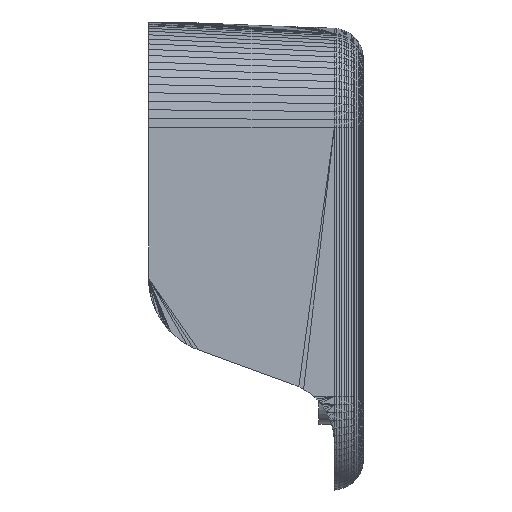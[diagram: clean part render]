
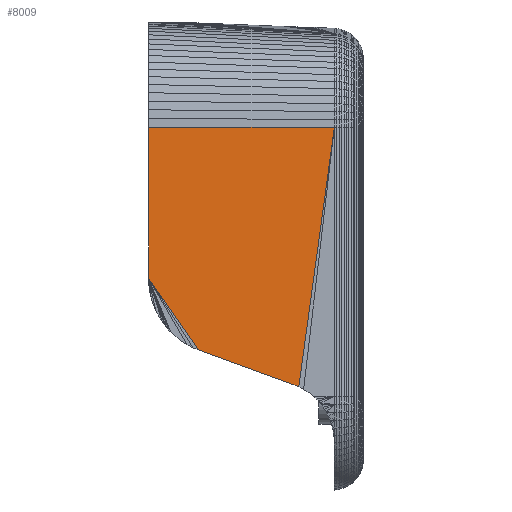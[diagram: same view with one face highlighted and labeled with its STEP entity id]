
A CAD part, front view. The second image highlights one B-rep face of the part: STEP entity #8009.
In plain terms, the highlighted planar face has unit normal (0.052, -0.999, 0).
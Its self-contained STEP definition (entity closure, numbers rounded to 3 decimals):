
#2316 = VERTEX_POINT ( 'NONE', #58210 ) ;
#4980 = DIRECTION ( 'NONE',  ( 0.573, 0.03, -0.819 ) ) ;
#5053 = CARTESIAN_POINT ( 'NONE',  ( 66.709, -12.199, 35.065 ) ) ;
#5126 = VECTOR ( 'NONE', #89775, 1000. ) ;
#7486 = VECTOR ( 'NONE', #4980, 1000. ) ;
#8009 = ADVANCED_FACE ( 'NONE', ( #56257 ), #115803, .T. ) ;
#11404 = LINE ( 'NONE', #63272, #69456 ) ;
#16941 = EDGE_CURVE ( 'NONE', #111995, #2316, #19189, .T. ) ;
#19189 = LINE ( 'NONE', #41678, #100522 ) ;
#22105 = EDGE_CURVE ( 'NONE', #22167, #49150, #127158, .T. ) ;
#22167 = VERTEX_POINT ( 'NONE', #48613 ) ;
#24859 = DIRECTION ( 'NONE',  ( 0.052, -0.999, 0. ) ) ;
#25346 = ORIENTED_EDGE ( 'NONE', *, *, #16941, .F. ) ;
#32400 = EDGE_CURVE ( 'NONE', #111995, #22167, #109569, .T. ) ;
#35492 = ORIENTED_EDGE ( 'NONE', *, *, #32400, .T. ) ;
#38263 = DIRECTION ( 'NONE',  ( 0.923, 0.048, -0.382 ) ) ;
#40237 = CARTESIAN_POINT ( 'NONE',  ( 49.08, -13.123, 6.015 ) ) ;
#41678 = CARTESIAN_POINT ( 'NONE',  ( 66.712, -12.199, 35.065 ) ) ;
#42165 = VECTOR ( 'NONE', #97189, 1000. ) ;
#44517 = ORIENTED_EDGE ( 'NONE', *, *, #22105, .T. ) ;
#47812 = AXIS2_PLACEMENT_3D ( 'NONE', #5053, #24859, #78068 ) ;
#48152 = CARTESIAN_POINT ( 'NONE',  ( 42.5, -13.467, 1.518 ) ) ;
#48511 = CARTESIAN_POINT ( 'NONE',  ( 61.436, -12.475, 1.518 ) ) ;
#48613 = CARTESIAN_POINT ( 'NONE',  ( 42.5, -13.467, 15.412 ) ) ;
#49150 = VERTEX_POINT ( 'NONE', #40237 ) ;
#51345 = EDGE_CURVE ( 'NONE', #49150, #79507, #88964, .T. ) ;
#52115 = EDGE_LOOP ( 'NONE', ( #25346, #35492, #44517, #92679, #59178, #93744 ) ) ;
#52214 = CARTESIAN_POINT ( 'NONE',  ( 62.081, -12.441, 1.25 ) ) ;
#53047 = DIRECTION ( 'NONE',  ( -0.136, -0.007, -0.991 ) ) ;
#56257 = FACE_OUTER_BOUND ( 'NONE', #52115, .T. ) ;
#58210 = CARTESIAN_POINT ( 'NONE',  ( 66.709, -12.199, 35.065 ) ) ;
#59178 = ORIENTED_EDGE ( 'NONE', *, *, #105972, .T. ) ;
#63272 = CARTESIAN_POINT ( 'NONE',  ( 66.709, -12.199, 35.065 ) ) ;
#63401 = VECTOR ( 'NONE', #38263, 1000. ) ;
#65065 = CARTESIAN_POINT ( 'NONE',  ( 42.5, -13.467, 15.412 ) ) ;
#69456 = VECTOR ( 'NONE', #53047, 1000. ) ;
#74055 = CARTESIAN_POINT ( 'NONE',  ( 42.5, -13.467, 35.065 ) ) ;
#78068 = DIRECTION ( 'NONE',  ( 0.999, 0.052, 0. ) ) ;
#79507 = VERTEX_POINT ( 'NONE', #110817 ) ;
#84653 = DIRECTION ( 'NONE',  ( 0.999, 0.052, 0. ) ) ;
#88964 = LINE ( 'NONE', #130573, #42165 ) ;
#89775 = DIRECTION ( 'NONE',  ( 0., 0., -1. ) ) ;
#92679 = ORIENTED_EDGE ( 'NONE', *, *, #51345, .T. ) ;
#93744 = ORIENTED_EDGE ( 'NONE', *, *, #101648, .F. ) ;
#97189 = DIRECTION ( 'NONE',  ( 0.939, 0.049, -0.342 ) ) ;
#100359 = LINE ( 'NONE', #48511, #63401 ) ;
#100522 = VECTOR ( 'NONE', #84653, 1000. ) ;
#101648 = EDGE_CURVE ( 'NONE', #2316, #105337, #11404, .T. ) ;
#105337 = VERTEX_POINT ( 'NONE', #52214 ) ;
#105972 = EDGE_CURVE ( 'NONE', #79507, #105337, #100359, .T. ) ;
#109569 = LINE ( 'NONE', #48152, #5126 ) ;
#110817 = CARTESIAN_POINT ( 'NONE',  ( 61.436, -12.475, 1.518 ) ) ;
#111995 = VERTEX_POINT ( 'NONE', #74055 ) ;
#115803 = PLANE ( 'NONE',  #47812 ) ;
#127158 = LINE ( 'NONE', #65065, #7486 ) ;
#130573 = CARTESIAN_POINT ( 'NONE',  ( 49.08, -13.123, 6.015 ) ) ;
